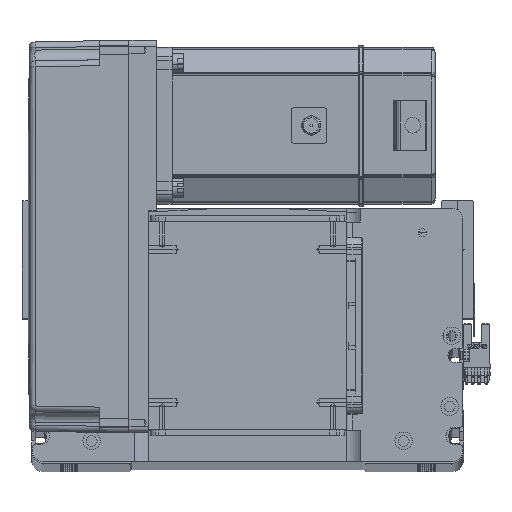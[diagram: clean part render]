
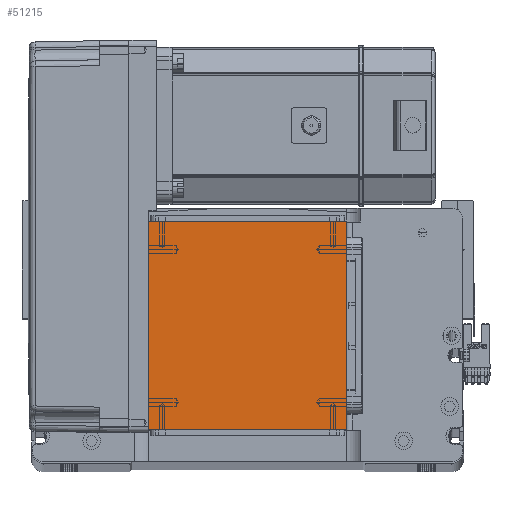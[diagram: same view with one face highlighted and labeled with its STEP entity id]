
A CAD part, top view. The second image highlights one B-rep face of the part: STEP entity #51215.
In plain terms, the highlighted planar face has unit normal (0, 0, 1).
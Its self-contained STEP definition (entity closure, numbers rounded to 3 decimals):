
#2506 = ORIENTED_EDGE ( 'NONE', *, *, #17310, .T. ) ;
#8934 = EDGE_CURVE ( 'NONE', #42671, #21059, #37023, .T. ) ;
#10485 = LINE ( 'NONE', #25399, #11876 ) ;
#11876 = VECTOR ( 'NONE', #46902, 1000. ) ;
#12274 = CARTESIAN_POINT ( 'NONE',  ( 0., 0., 115. ) ) ;
#16320 = DIRECTION ( 'NONE',  ( 1., 0., 0. ) ) ;
#17310 = EDGE_CURVE ( 'NONE', #47709, #42671, #26336, .T. ) ;
#17948 = DIRECTION ( 'NONE',  ( -1., 0., 0. ) ) ;
#20457 = CARTESIAN_POINT ( 'NONE',  ( -50.5, 122., 115. ) ) ;
#21059 = VERTEX_POINT ( 'NONE', #34058 ) ;
#21379 = VECTOR ( 'NONE', #39328, 1000. ) ;
#22619 = ORIENTED_EDGE ( 'NONE', *, *, #8934, .T. ) ;
#25362 = VECTOR ( 'NONE', #25569, 1000. ) ;
#25396 = CARTESIAN_POINT ( 'NONE',  ( -50.5, 122., 115. ) ) ;
#25399 = CARTESIAN_POINT ( 'NONE',  ( -50.5, 16., 115. ) ) ;
#25569 = DIRECTION ( 'NONE',  ( 0., -1., 0. ) ) ;
#26069 = CARTESIAN_POINT ( 'NONE',  ( 50.5, 122., 115. ) ) ;
#26249 = EDGE_CURVE ( 'NONE', #21059, #43014, #10485, .T. ) ;
#26336 = LINE ( 'NONE', #30744, #56575 ) ;
#30744 = CARTESIAN_POINT ( 'NONE',  ( -50.5, 122., 115. ) ) ;
#31113 = EDGE_CURVE ( 'NONE', #43014, #47709, #31685, .T. ) ;
#31685 = LINE ( 'NONE', #26069, #21379 ) ;
#32562 = EDGE_LOOP ( 'NONE', ( #22619, #47682, #54811, #2506 ) ) ;
#34058 = CARTESIAN_POINT ( 'NONE',  ( -50.5, 16., 115. ) ) ;
#35583 = FACE_OUTER_BOUND ( 'NONE', #32562, .T. ) ;
#36115 = CARTESIAN_POINT ( 'NONE',  ( 50.5, 16., 115. ) ) ;
#36706 = AXIS2_PLACEMENT_3D ( 'NONE', #12274, #47135, #16320 ) ;
#37023 = LINE ( 'NONE', #25396, #25362 ) ;
#37834 = CARTESIAN_POINT ( 'NONE',  ( 50.5, 122., 115. ) ) ;
#38330 = PLANE ( 'NONE',  #36706 ) ;
#39328 = DIRECTION ( 'NONE',  ( 0., 1., 0. ) ) ;
#42671 = VERTEX_POINT ( 'NONE', #20457 ) ;
#43014 = VERTEX_POINT ( 'NONE', #36115 ) ;
#46902 = DIRECTION ( 'NONE',  ( 1., 0., 0. ) ) ;
#47135 = DIRECTION ( 'NONE',  ( 0., 0., 1. ) ) ;
#47682 = ORIENTED_EDGE ( 'NONE', *, *, #26249, .T. ) ;
#47709 = VERTEX_POINT ( 'NONE', #37834 ) ;
#51215 = ADVANCED_FACE ( 'NONE', ( #35583 ), #38330, .T. ) ;
#54811 = ORIENTED_EDGE ( 'NONE', *, *, #31113, .T. ) ;
#56575 = VECTOR ( 'NONE', #17948, 1000. ) ;
